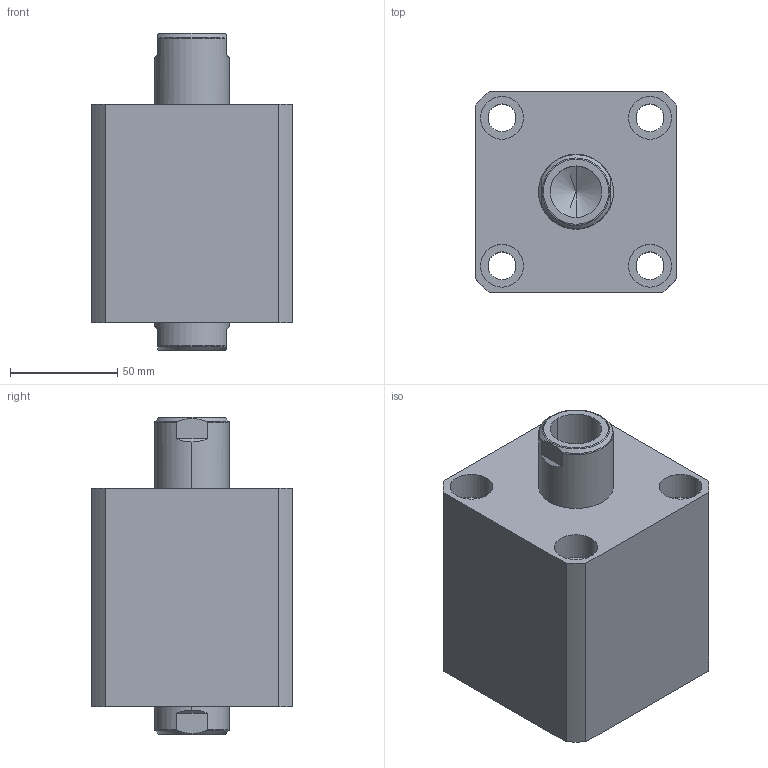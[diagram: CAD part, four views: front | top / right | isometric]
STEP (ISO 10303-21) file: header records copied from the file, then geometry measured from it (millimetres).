
FILE_DESCRIPTION (( 'STEP AP214' ), '1' );
FILE_NAME ('chtb-sw63x20n_asm.STEP', '2018-05-12T01:37:07', ( 'Windows' ), ( 'Microsoft' ), 'SwSTEP 2.0', 'SolidWorks 2015', '' );
FILE_SCHEMA (( 'AUTOMOTIVE_DESIGN' ));
Length unit declared in the file: millimetre
Products named in the file (4): CHTB-SW63X20NHSG; CHTB-SW63X20NBT; CHTB-63QG; chtb-sw63x20n_asm
Assembly tree (3 placements, depth 2):
  chtb-sw63x20n_asm
    CHTB-63QG
    CHTB-SW63X20NBT
    CHTB-SW63X20NHSG
Bounding box: 94 x 94 x 148 mm (x, y, z)
Volume: 795042.2 mm3; surface area: 137902.2 mm2
Topology: 3 solids, 3 shells, 184 faces, 515 edges, 349 vertices
Faces by surface type: cylinder 106, plane 38, cone 16, bspline 12, torus 12
Entity records: 18385 total; most frequent: CARTESIAN_POINT 13775, ORIENTED_EDGE 1014, DIRECTION 814, EDGE_CURVE 507, VERTEX_POINT 349, AXIS2_PLACEMENT_3D 331, EDGE_LOOP 220, FACE_OUTER_BOUND 184
